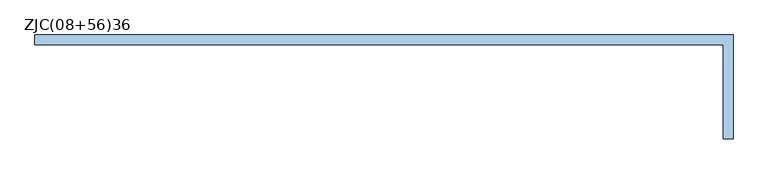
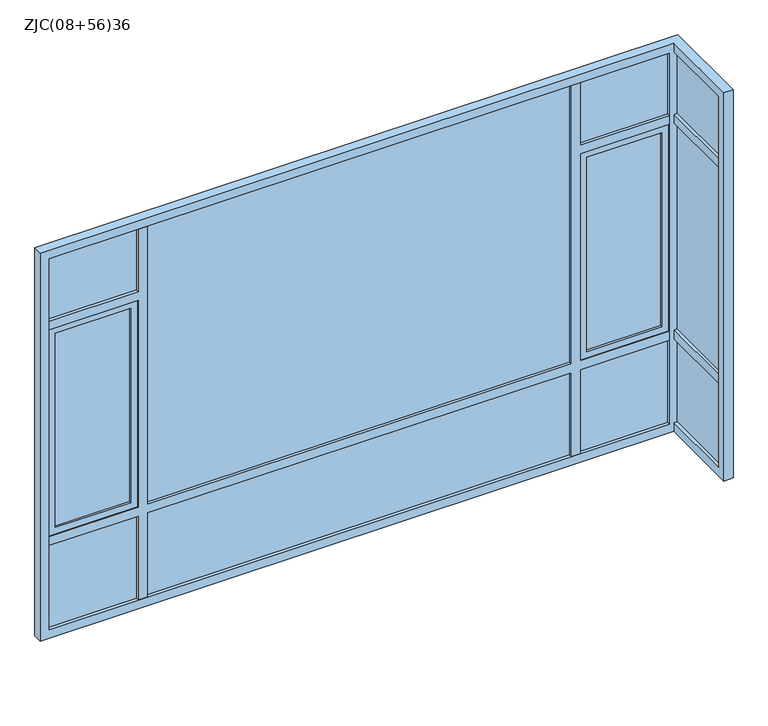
"""IFC4 building model written with IfcOpenShell, lengths in millimetres: window geometry, 转角窗 安荣伟 : ZJC(08+56)36."""

from ifc_helpers import new_model, si_unit, frame, origin, place, context, project, spatial, polyline, outline, extrude, faceted_brep, source, transform, mapped, element, save


def zjc_08_56_36_e4592b0d(model_context):
    return source(origin(), model_context, "Body", "SolidModel", [
        faceted_brep([(-5600.0, 40.0, 3600.0), (40.0, 40.0, 3600.0), (40.0, 40.0, 0.0), (-5600.0, 40.0, 0.0), (-80.0, 40.0, 3520.0), (-5520.0, 40.0, 3520.0), (-5520.0, 40.0, 80.0), (-80.0, 40.0, 80.0), (-5600.0, -40.0, 0.0), (-40.0, -40.0, 0.0), (-40.0, -40.0, 80.0), (40.0, -40.0, 80.0), (40.0, -40.0, 3520.0), (-40.0, -40.0, 3520.0), (-40.0, -40.0, 3600.0), (-5600.0, -40.0, 3600.0), (-80.0, -40.0, 3520.0), (-80.0, -40.0, 80.0), (-5520.0, -40.0, 80.0), (-5520.0, -40.0, 3520.0), (-40.0, -800.0, 3600.0), (40.0, -800.0, 3600.0), (40.0, -800.0, 0.0), (-40.0, -800.0, 0.0), (40.0, -720.0, 3520.0), (40.0, -720.0, 80.0), (-40.0, -720.0, 3520.0), (-40.0, -720.0, 80.0)], [[[0, 1, 2, 3], [4, 5, 6, 7]], [[8, 9, 10, 11, 12, 13, 14, 15], [16, 17, 18, 19]], [[15, 14, 20, 21, 1, 0]], [[3, 8, 15, 0]], [[2, 22, 23, 9, 8, 3]], [[7, 17, 16, 4]], [[6, 18, 17, 7]], [[5, 19, 18, 6]], [[4, 16, 19, 5]], [[21, 22, 2, 1], [24, 12, 11, 25]], [[20, 14, 13, 26, 27, 10, 9, 23]], [[21, 20, 23, 22]], [[25, 27, 26, 24]], [[10, 27, 25, 11]], [[24, 26, 13, 12]]]),
        extrude(outline(polyline([(80.0, -4660.0), (860.0, -4660.0), (860.0, -940.0), (80.0, -940.0), (80.0, -860.0), (860.0, -860.0), (860.0, -80.0), (940.0, -80.0), (940.0, -860.0), (2860.0, -860.0), (2860.0, -80.0), (2940.0, -80.0), (2940.0, -860.0), (3520.0, -860.0), (3520.0, -940.0), (940.0, -940.0), (940.0, -4660.0), (3520.0, -4660.0), (3520.0, -4740.0), (2940.0, -4740.0), (2940.0, -5520.0), (2860.0, -5520.0), (2860.0, -4740.0), (940.0, -4740.0), (940.0, -5520.0), (860.0, -5520.0), (860.0, -4740.0), (80.0, -4740.0), (80.0, -4660.0)])), frame((0.0, -40.0, 0.0), z_axis=(0.0, 1.0, 0.0), x_axis=(0.0, 0.0, 1.0)), (0.0, 0.0, 1.0), 80.0),
        extrude(outline(polyline([(-6.0, -720.0), (-12.0, -720.0), (-12.0, -40.0), (-6.0, -40.0), (-6.0, -720.0)])), frame((0.0, 0.0, 2940.0), z_axis=(0.0, 0.0, 1.0), x_axis=(1.0, 0.0, 0.0)), (0.0, 0.0, 1.0), 580.0),
        extrude(outline(polyline([(-6.0, -720.0), (-12.0, -720.0), (-12.0, -40.0), (-6.0, -40.0), (-6.0, -720.0)])), frame((0.0, 0.0, 940.0), z_axis=(0.0, 0.0, 1.0), x_axis=(1.0, 0.0, 0.0)), (0.0, 0.0, 1.0), 1920.0),
        extrude(outline(polyline([(-6.0, -720.0), (-12.0, -720.0), (-12.0, -40.0), (-6.0, -40.0), (-6.0, -720.0)])), frame((0.0, 0.0, 80.0), z_axis=(0.0, 0.0, 1.0), x_axis=(1.0, 0.0, 0.0)), (0.0, 0.0, 1.0), 780.0),
        extrude(outline(polyline([(12.0, -720.0), (6.0, -720.0), (6.0, -40.0), (12.0, -40.0), (12.0, -720.0)])), frame((0.0, 0.0, 2940.0), z_axis=(0.0, 0.0, 1.0), x_axis=(1.0, 0.0, 0.0)), (0.0, 0.0, 1.0), 580.0),
        extrude(outline(polyline([(12.0, -720.0), (6.0, -720.0), (6.0, -40.0), (12.0, -40.0), (12.0, -720.0)])), frame((0.0, 0.0, 940.0), z_axis=(0.0, 0.0, 1.0), x_axis=(1.0, 0.0, 0.0)), (0.0, 0.0, 1.0), 1920.0),
        extrude(outline(polyline([(12.0, -720.0), (6.0, -720.0), (6.0, -40.0), (12.0, -40.0), (12.0, -720.0)])), frame((0.0, 0.0, 80.0), z_axis=(0.0, 0.0, 1.0), x_axis=(1.0, 0.0, 0.0)), (0.0, 0.0, 1.0), 780.0),
        extrude(outline(polyline([(-4740.0, -6.0), (-4740.0, -12.0), (-5520.0, -12.0), (-5520.0, -6.0), (-4740.0, -6.0)])), frame((0.0, 0.0, 2940.0), z_axis=(0.0, 0.0, 1.0), x_axis=(1.0, 0.0, 0.0)), (0.0, 0.0, 1.0), 580.0),
        extrude(outline(polyline([(-4800.0, -6.0), (-4800.0, -12.0), (-5460.0, -12.0), (-5460.0, -6.0), (-4800.0, -6.0)])), frame((0.0, 0.0, 1000.0), z_axis=(0.0, 0.0, 1.0), x_axis=(1.0, 0.0, 0.0)), (0.0, 0.0, 1.0), 1800.0),
        extrude(outline(polyline([(-940.0, -6.0), (-940.0, -12.0), (-4660.0, -12.0), (-4660.0, -6.0), (-940.0, -6.0)])), frame((0.0, 0.0, 940.0), z_axis=(0.0, 0.0, 1.0), x_axis=(1.0, 0.0, 0.0)), (0.0, 0.0, 1.0), 2580.0),
        extrude(outline(polyline([(-80.0, -6.0), (-80.0, -12.0), (-860.0, -12.0), (-860.0, -6.0), (-80.0, -6.0)])), frame((0.0, 0.0, 2940.0), z_axis=(0.0, 0.0, 1.0), x_axis=(1.0, 0.0, 0.0)), (0.0, 0.0, 1.0), 580.0),
        extrude(outline(polyline([(-140.0, -6.0), (-140.0, -12.0), (-800.0, -12.0), (-800.0, -6.0), (-140.0, -6.0)])), frame((0.0, 0.0, 1000.0), z_axis=(0.0, 0.0, 1.0), x_axis=(1.0, 0.0, 0.0)), (0.0, 0.0, 1.0), 1800.0),
        extrude(outline(polyline([(-4740.0, -6.0), (-4740.0, -12.0), (-5520.0, -12.0), (-5520.0, -6.0), (-4740.0, -6.0)])), frame((0.0, 0.0, 80.0), z_axis=(0.0, 0.0, 1.0), x_axis=(1.0, 0.0, 0.0)), (0.0, 0.0, 1.0), 780.0),
        extrude(outline(polyline([(-940.0, -6.0), (-940.0, -12.0), (-4660.0, -12.0), (-4660.0, -6.0), (-940.0, -6.0)])), frame((0.0, 0.0, 80.0), z_axis=(0.0, 0.0, 1.0), x_axis=(1.0, 0.0, 0.0)), (0.0, 0.0, 1.0), 780.0),
        extrude(outline(polyline([(-80.0, -6.0), (-80.0, -12.0), (-860.0, -12.0), (-860.0, -6.0), (-80.0, -6.0)])), frame((0.0, 0.0, 80.0), z_axis=(0.0, 0.0, 1.0), x_axis=(1.0, 0.0, 0.0)), (0.0, 0.0, 1.0), 780.0),
        extrude(outline(polyline([(-4740.0, 12.0), (-4740.0, 6.0), (-5520.0, 6.0), (-5520.0, 12.0), (-4740.0, 12.0)])), frame((0.0, 0.0, 2940.0), z_axis=(0.0, 0.0, 1.0), x_axis=(1.0, 0.0, 0.0)), (0.0, 0.0, 1.0), 580.0),
        extrude(outline(polyline([(-4800.0, 12.0), (-4800.0, 6.0), (-5460.0, 6.0), (-5460.0, 12.0), (-4800.0, 12.0)])), frame((0.0, 0.0, 1000.0), z_axis=(0.0, 0.0, 1.0), x_axis=(1.0, 0.0, 0.0)), (0.0, 0.0, 1.0), 1800.0),
        extrude(outline(polyline([(-940.0, 12.0), (-940.0, 6.0), (-4660.0, 6.0), (-4660.0, 12.0), (-940.0, 12.0)])), frame((0.0, 0.0, 940.0), z_axis=(0.0, 0.0, 1.0), x_axis=(1.0, 0.0, 0.0)), (0.0, 0.0, 1.0), 2580.0),
        extrude(outline(polyline([(-80.0, 12.0), (-80.0, 6.0), (-860.0, 6.0), (-860.0, 12.0), (-80.0, 12.0)])), frame((0.0, 0.0, 2940.0), z_axis=(0.0, 0.0, 1.0), x_axis=(1.0, 0.0, 0.0)), (0.0, 0.0, 1.0), 580.0),
        extrude(outline(polyline([(-140.0, 12.0), (-140.0, 6.0), (-800.0, 6.0), (-800.0, 12.0), (-140.0, 12.0)])), frame((0.0, 0.0, 1000.0), z_axis=(0.0, 0.0, 1.0), x_axis=(1.0, 0.0, 0.0)), (0.0, 0.0, 1.0), 1800.0),
        extrude(outline(polyline([(-4740.0, 12.0), (-4740.0, 6.0), (-5520.0, 6.0), (-5520.0, 12.0), (-4740.0, 12.0)])), frame((0.0, 0.0, 80.0), z_axis=(0.0, 0.0, 1.0), x_axis=(1.0, 0.0, 0.0)), (0.0, 0.0, 1.0), 780.0),
        extrude(outline(polyline([(-940.0, 12.0), (-940.0, 6.0), (-4660.0, 6.0), (-4660.0, 12.0), (-940.0, 12.0)])), frame((0.0, 0.0, 80.0), z_axis=(0.0, 0.0, 1.0), x_axis=(1.0, 0.0, 0.0)), (0.0, 0.0, 1.0), 780.0),
        extrude(outline(polyline([(-80.0, 12.0), (-80.0, 6.0), (-860.0, 6.0), (-860.0, 12.0), (-80.0, 12.0)])), frame((0.0, 0.0, 80.0), z_axis=(0.0, 0.0, 1.0), x_axis=(1.0, 0.0, 0.0)), (0.0, 0.0, 1.0), 780.0),
        extrude(outline(polyline([(40.0, -720.0), (-40.0, -720.0), (-40.0, -40.0), (40.0, -40.0), (40.0, -720.0)])), frame((0.0, 0.0, 2860.0), z_axis=(0.0, 0.0, 1.0), x_axis=(1.0, 0.0, 0.0)), (0.0, 0.0, 1.0), 80.0),
        extrude(outline(polyline([(40.0, -720.0), (-40.0, -720.0), (-40.0, -40.0), (40.0, -40.0), (40.0, -720.0)])), frame((0.0, 0.0, 860.0), z_axis=(0.0, 0.0, 1.0), x_axis=(1.0, 0.0, 0.0)), (0.0, 0.0, 1.0), 80.0),
        extrude(outline(polyline([(2860.0, -4740.0), (2860.0, -5520.0), (940.0, -5520.0), (940.0, -4740.0), (2860.0, -4740.0)]), holes=[polyline([(2800.0, -4800.0), (1000.0, -4800.0), (1000.0, -5460.0), (2800.0, -5460.0), (2800.0, -4800.0)])]), frame((0.0, -30.0, 0.0), z_axis=(0.0, 1.0, 0.0), x_axis=(0.0, 0.0, 1.0)), (0.0, 0.0, 1.0), 60.0),
        extrude(outline(polyline([(2860.0, -80.0), (2860.0, -860.0), (940.0, -860.0), (940.0, -80.0), (2860.0, -80.0)]), holes=[polyline([(2800.0, -140.0), (1000.0, -140.0), (1000.0, -800.0), (2800.0, -800.0), (2800.0, -140.0)])]), frame((0.0, -30.0, 0.0), z_axis=(0.0, 1.0, 0.0), x_axis=(0.0, 0.0, 1.0)), (0.0, 0.0, 1.0), 60.0),
    ])


if __name__ == "__main__":
    model = new_model("IFC4")
    model_context = context("Model", 3, world=origin())
    ifc_project = project(units=[si_unit("LENGTHUNIT", "METRE", prefix="MILLI")], contexts=[model_context])
    site = spatial("IfcSite", under=ifc_project)
    building = spatial("IfcBuilding", under=site)
    placement = place(None, origin())
    zjc_08_56_36_shape = zjc_08_56_36_e4592b0d(model_context)
    element("IfcWindow", 1, ObjectType="转角窗 安荣伟 : ZJC(08+56)36", at=placement, inside=building, context=model_context, shape_type="MappedRepresentation", body=[
        mapped(zjc_08_56_36_shape, transform((0.0, 0.0, 0.0), x_axis=(1.0, 0.0, 0.0), y_axis=(0.0, 1.0, 0.0), z_axis=(0.0, 0.0, 1.0))),
    ])
    save(model, "model.ifc")
